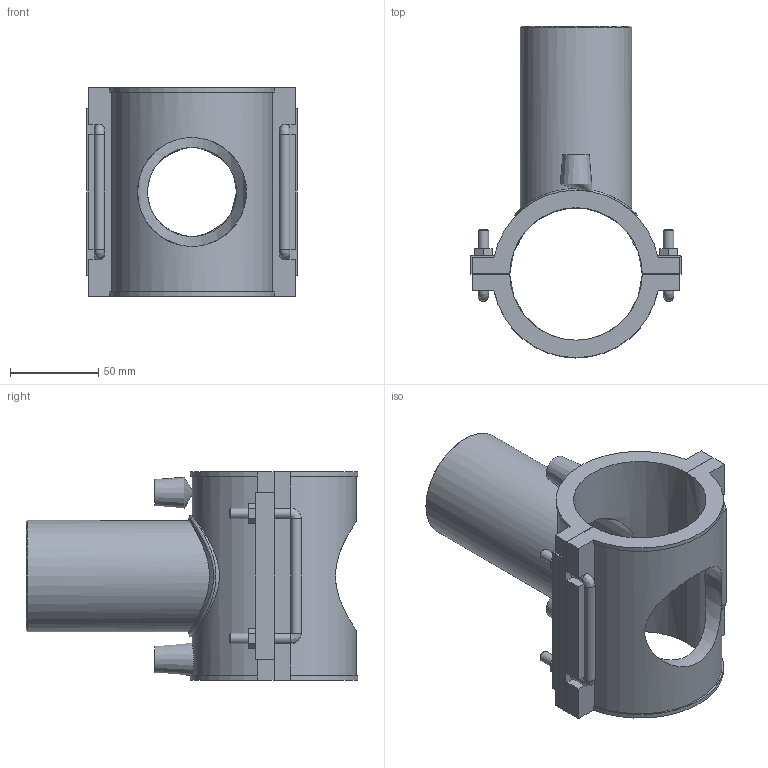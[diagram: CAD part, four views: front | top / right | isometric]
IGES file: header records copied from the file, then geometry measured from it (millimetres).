
Global section: file name: 495804075063.ipt; native system: Autodesk Inventor 2015; preprocessor: unknown; author: KIM; date: 20180426.120828; units: millimetre
Bounding box: 119 x 187.93 x 118 mm (x, y, z)
Volume: 416274.5 mm3; surface area: 121024.7 mm2
Topology: 2 solids, 2 shells, 134 faces, 345 edges, 218 vertices
Faces by surface type: plane 85, cylinder 23, revolution 10, bspline 9, cone 7
Full cylindrical faces by diameter (mm): 4 x2, 6 x10, 63 x1
